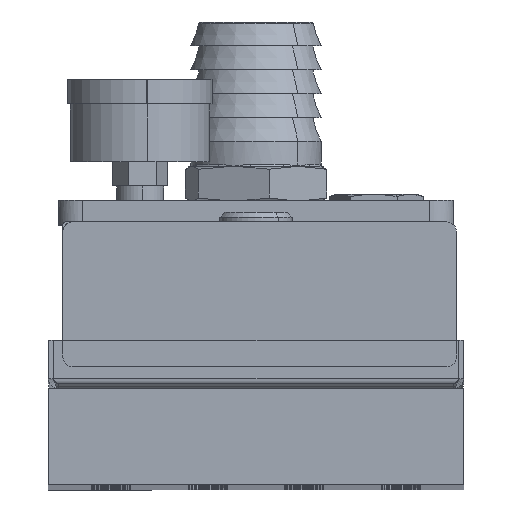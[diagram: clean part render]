
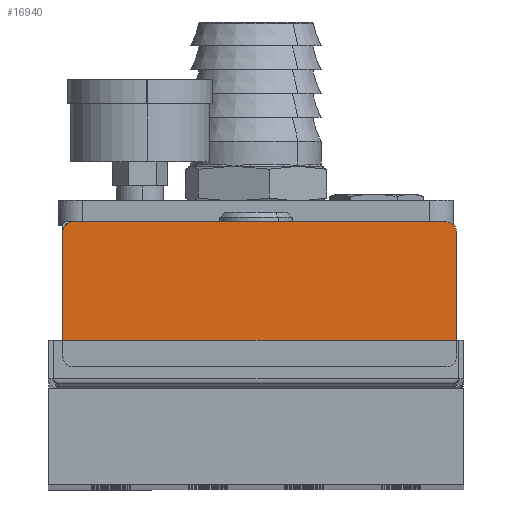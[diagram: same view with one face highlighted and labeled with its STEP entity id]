
A CAD part, top view. The second image highlights one B-rep face of the part: STEP entity #16940.
In plain terms, the highlighted planar face has unit normal (0, 0, 1).
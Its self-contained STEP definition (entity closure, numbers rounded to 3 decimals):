
#292 = FACE_OUTER_BOUND ( 'NONE', #6316, .T. ) ;
#1334 = AXIS2_PLACEMENT_3D ( 'NONE', #6561, #6560, #6559 ) ;
#1566 = AXIS2_PLACEMENT_3D ( 'NONE', #7112, #7111, #6679 ) ;
#1588 = AXIS2_PLACEMENT_3D ( 'NONE', #6632, #6604, #6594 ) ;
#1804 = AXIS2_PLACEMENT_3D ( 'NONE', #6626, #6570, #6687 ) ;
#6316 = EDGE_LOOP ( 'NONE', ( #24369, #24368, #24380, #24370, #24372, #24298, #24373, #24371 ) ) ;
#6559 = DIRECTION ( 'NONE',  ( -1., 0., 0. ) ) ;
#6560 = DIRECTION ( 'NONE',  ( 0., 0., 1. ) ) ;
#6561 = CARTESIAN_POINT ( 'NONE',  ( -2.461, 16.924, 279.581 ) ) ;
#6570 = DIRECTION ( 'NONE',  ( 0., 0., 1. ) ) ;
#6575 = DIRECTION ( 'NONE',  ( 0., 1., 0. ) ) ;
#6594 = DIRECTION ( 'NONE',  ( 1., 0., 0. ) ) ;
#6604 = DIRECTION ( 'NONE',  ( 0., 0., 1. ) ) ;
#6626 = CARTESIAN_POINT ( 'NONE',  ( -2.461, -9.076, 279.581 ) ) ;
#6632 = CARTESIAN_POINT ( 'NONE',  ( 75.039, -9.076, 279.581 ) ) ;
#6679 = DIRECTION ( 'NONE',  ( 1., 0., 0. ) ) ;
#6687 = DIRECTION ( 'NONE',  ( -1., 0., 0. ) ) ;
#6817 = CARTESIAN_POINT ( 'NONE',  ( 77.039, 16.924, 279.581 ) ) ;
#7039 = CARTESIAN_POINT ( 'NONE',  ( -2.461, -11.076, 279.581 ) ) ;
#7040 = DIRECTION ( 'NONE',  ( -1., 0., 0. ) ) ;
#7047 = CARTESIAN_POINT ( 'NONE',  ( -2.461, 18.924, 279.581 ) ) ;
#7111 = DIRECTION ( 'NONE',  ( 0., 0., 1. ) ) ;
#7112 = CARTESIAN_POINT ( 'NONE',  ( 75.039, 16.924, 279.581 ) ) ;
#7113 = DIRECTION ( 'NONE',  ( 1., 0., 0. ) ) ;
#7424 = DIRECTION ( 'NONE',  ( 0., -1., 0. ) ) ;
#7447 = CARTESIAN_POINT ( 'NONE',  ( -4.461, 16.924, 279.581 ) ) ;
#9081 = EDGE_CURVE ( 'NONE', #29771, #30086, #16703, .T. ) ;
#9084 = EDGE_CURVE ( 'NONE', #29110, #29771, #16553, .T. ) ;
#9086 = EDGE_CURVE ( 'NONE', #29279, #29474, #16721, .T. ) ;
#9087 = EDGE_CURVE ( 'NONE', #29249, #29279, #16494, .T. ) ;
#9089 = EDGE_CURVE ( 'NONE', #29657, #29249, #16745, .T. ) ;
#9104 = EDGE_CURVE ( 'NONE', #30086, #29789, #16652, .T. ) ;
#9105 = EDGE_CURVE ( 'NONE', #29474, #29110, #16734, .T. ) ;
#9144 = EDGE_CURVE ( 'NONE', #29789, #29657, #12424, .T. ) ;
#11905 = AXIS2_PLACEMENT_3D ( 'NONE', #18075, #18076, #18077 ) ;
#12424 = LINE ( 'NONE', #7447, #12426 ) ;
#12426 = VECTOR ( 'NONE', #7424, 1000. ) ;
#16458 = VECTOR ( 'NONE', #7113, 1000. ) ;
#16464 = VECTOR ( 'NONE', #6575, 1000. ) ;
#16494 = LINE ( 'NONE', #7039, #16458 ) ;
#16500 = VECTOR ( 'NONE', #7040, 1000. ) ;
#16553 = CIRCLE ( 'NONE', #1566, 2. ) ;
#16652 = CIRCLE ( 'NONE', #1334, 2. ) ;
#16703 = LINE ( 'NONE', #7047, #16500 ) ;
#16721 = CIRCLE ( 'NONE', #1588, 2. ) ;
#16734 = LINE ( 'NONE', #6817, #16464 ) ;
#16745 = CIRCLE ( 'NONE', #1804, 2. ) ;
#16940 = ADVANCED_FACE ( 'NONE', ( #292 ), #18056, .F. ) ;
#18056 = PLANE ( 'NONE',  #11905 ) ;
#18075 = CARTESIAN_POINT ( 'NONE',  ( -2.461, 16.924, 279.581 ) ) ;
#18076 = DIRECTION ( 'NONE',  ( 0., 0., -1. ) ) ;
#18077 = DIRECTION ( 'NONE',  ( -1., 0., 0. ) ) ;
#24298 = ORIENTED_EDGE ( 'NONE', *, *, #9105, .T. ) ;
#24368 = ORIENTED_EDGE ( 'NONE', *, *, #9144, .T. ) ;
#24369 = ORIENTED_EDGE ( 'NONE', *, *, #9104, .T. ) ;
#24370 = ORIENTED_EDGE ( 'NONE', *, *, #9087, .T. ) ;
#24371 = ORIENTED_EDGE ( 'NONE', *, *, #9081, .T. ) ;
#24372 = ORIENTED_EDGE ( 'NONE', *, *, #9086, .T. ) ;
#24373 = ORIENTED_EDGE ( 'NONE', *, *, #9084, .T. ) ;
#24380 = ORIENTED_EDGE ( 'NONE', *, *, #9089, .T. ) ;
#27288 = CARTESIAN_POINT ( 'NONE',  ( 77.039, 16.924, 279.581 ) ) ;
#27330 = CARTESIAN_POINT ( 'NONE',  ( -2.461, -11.076, 279.581 ) ) ;
#27347 = CARTESIAN_POINT ( 'NONE',  ( 75.039, -11.076, 279.581 ) ) ;
#27398 = CARTESIAN_POINT ( 'NONE',  ( 77.039, -9.076, 279.581 ) ) ;
#27496 = CARTESIAN_POINT ( 'NONE',  ( -4.461, -9.076, 279.581 ) ) ;
#27526 = CARTESIAN_POINT ( 'NONE',  ( 75.039, 18.924, 279.581 ) ) ;
#27535 = CARTESIAN_POINT ( 'NONE',  ( -4.461, 16.924, 279.581 ) ) ;
#27623 = CARTESIAN_POINT ( 'NONE',  ( -2.461, 18.924, 279.581 ) ) ;
#29110 = VERTEX_POINT ( 'NONE', #27288 ) ;
#29249 = VERTEX_POINT ( 'NONE', #27330 ) ;
#29279 = VERTEX_POINT ( 'NONE', #27347 ) ;
#29474 = VERTEX_POINT ( 'NONE', #27398 ) ;
#29657 = VERTEX_POINT ( 'NONE', #27496 ) ;
#29771 = VERTEX_POINT ( 'NONE', #27526 ) ;
#29789 = VERTEX_POINT ( 'NONE', #27535 ) ;
#30086 = VERTEX_POINT ( 'NONE', #27623 ) ;
